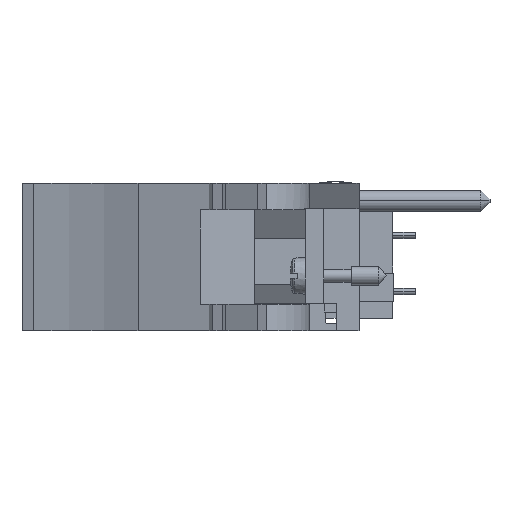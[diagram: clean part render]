
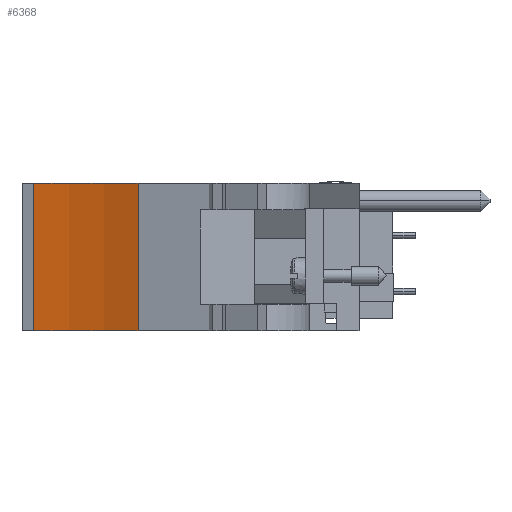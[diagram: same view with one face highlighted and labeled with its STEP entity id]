
A CAD part, front view. The second image highlights one B-rep face of the part: STEP entity #6368.
In plain terms, the highlighted cylindrical face has radius 51.46 mm (diameter 102.919 mm), a partial arc.
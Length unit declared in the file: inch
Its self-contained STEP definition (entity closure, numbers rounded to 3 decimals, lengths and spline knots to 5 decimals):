
#646=CARTESIAN_POINT('',(-6.04908,-5.95079,0.6335));
#647=DIRECTION('',(0.,0.,1.));
#648=DIRECTION('',(0.435,0.9,0.));
#649=AXIS2_PLACEMENT_3D('',#646,#647,#648);
#991=CARTESIAN_POINT('',(-6.04908,-5.95079,-0.1545));
#992=DIRECTION('',(0.,0.,1.));
#993=DIRECTION('',(0.435,0.9,0.));
#994=AXIS2_PLACEMENT_3D('',#991,#992,#993);
#1209=DIRECTION('',(0.,0.,1.));
#1210=VECTOR('',#1209,0.788);
#1211=CARTESIAN_POINT('',(-5.72574,-3.95079,-0.1545));
#1212=LINE('',#1211,#1210);
#1217=DIRECTION('',(0.,0.,1.));
#1218=VECTOR('',#1217,0.788);
#1219=CARTESIAN_POINT('',(-5.16777,-4.12655,
-0.1545));
#1220=LINE('',#1219,#1218);
#4513=CARTESIAN_POINT('',(-5.16777,-4.12655,
-0.1545));
#4514=CARTESIAN_POINT('',(-5.72574,-3.95079,-0.1545));
#4515=VERTEX_POINT('',#4513);
#4516=VERTEX_POINT('',#4514);
#4517=CARTESIAN_POINT('',(-5.16777,-4.12655,
0.6335));
#4518=CARTESIAN_POINT('',(-5.72574,-3.95079,0.6335));
#4519=VERTEX_POINT('',#4517);
#4520=VERTEX_POINT('',#4518);
#6356=CARTESIAN_POINT('',(-6.04908,-5.95079,0.6335));
#6357=DIRECTION('',(0.,0.,1.));
#6358=DIRECTION('',(0.,1.,0.));
#6359=AXIS2_PLACEMENT_3D('',#6356,#6357,#6358);
#6360=CYLINDRICAL_SURFACE('',#6359,2.02597);
#6361=ORIENTED_EDGE('',*,*,#6074,.T.);
#6362=ORIENTED_EDGE('',*,*,#6348,.T.);
#6363=ORIENTED_EDGE('',*,*,#5623,.F.);
#6365=ORIENTED_EDGE('',*,*,#6364,.F.);
#6366=EDGE_LOOP('',(#6361,#6362,#6363,#6365));
#6367=FACE_OUTER_BOUND('',#6366,.F.);
#6368=ADVANCED_FACE('',(#6367),#6360,.F.);
#650=CIRCLE('',#649,2.02597);
#995=CIRCLE('',#994,2.02597);
#5623=EDGE_CURVE('',#4519,#4520,#650,.T.);
#6074=EDGE_CURVE('',#4515,#4516,#995,.T.);
#6348=EDGE_CURVE('',#4516,#4520,#1212,.T.);
#6364=EDGE_CURVE('',#4515,#4519,#1220,.T.);
